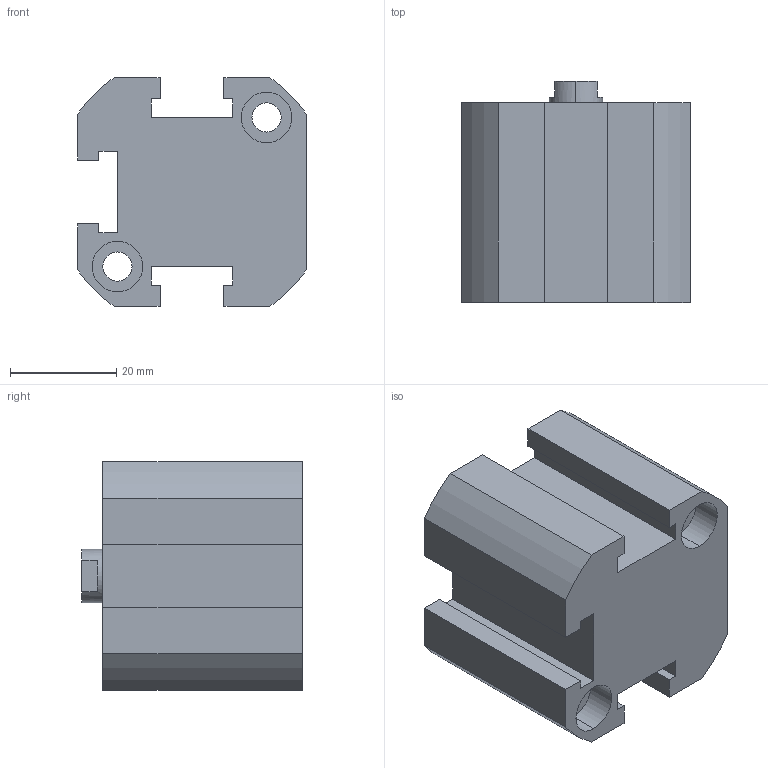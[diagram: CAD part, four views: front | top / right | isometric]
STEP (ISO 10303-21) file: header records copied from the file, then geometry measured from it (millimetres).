
FILE_DESCRIPTION (( 'STEP AP203' ), '1' );
FILE_NAME ('XC#1-25D-10.STEP', '2016-05-23T07:44:10', ( '' ), ( '' ), 'SwSTEP 2.0', 'SolidWorks 2014', '' );
FILE_SCHEMA (( 'CONFIG_CONTROL_DESIGN' ));
Length unit declared in the file: millimetre
Products named in the file (1): XC#1-25D-10
Bounding box: 43 x 41.5 x 43 mm (x, y, z)
Volume: 51268.2 mm3; surface area: 13494.7 mm2
Topology: 1 solids, 1 shells, 88 faces, 225 edges, 146 vertices
Faces by surface type: plane 44, cylinder 40, cone 4
Entity records: 2742 total; most frequent: DIRECTION 483, CARTESIAN_POINT 456, ORIENTED_EDGE 442, EDGE_CURVE 221, AXIS2_PLACEMENT_3D 173, VERTEX_POINT 146, VECTOR 137, LINE 137
